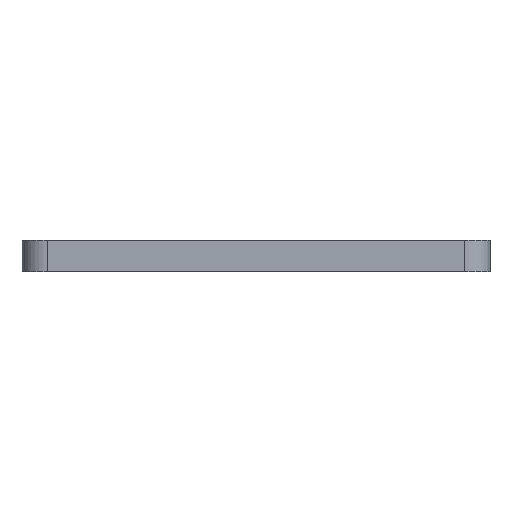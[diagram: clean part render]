
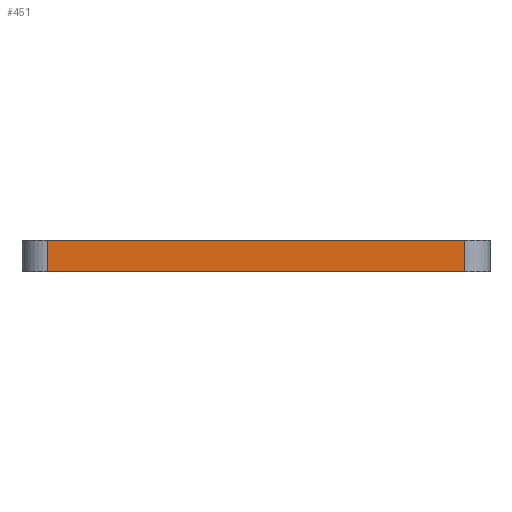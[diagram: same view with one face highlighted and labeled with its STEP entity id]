
A CAD part, front view. The second image highlights one B-rep face of the part: STEP entity #451.
In plain terms, the highlighted planar face has unit normal (0, -1, 0).
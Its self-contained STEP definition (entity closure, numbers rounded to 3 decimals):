
#26 = PLANE ( 'NONE',  #603 ) ;
#28 = CARTESIAN_POINT ( 'NONE',  ( 0., -33.396, 0. ) ) ;
#38 = DIRECTION ( 'NONE',  ( 0., 0., 1. ) ) ;
#68 = VECTOR ( 'NONE', #896, 1000. ) ;
#112 = CARTESIAN_POINT ( 'NONE',  ( -51.125, -33.396, 2.5 ) ) ;
#133 = EDGE_CURVE ( 'NONE', #416, #515, #727, .T. ) ;
#163 = CARTESIAN_POINT ( 'NONE',  ( -18.125, -33.396, 2.5 ) ) ;
#188 = CARTESIAN_POINT ( 'NONE',  ( 0., -33.396, 2.5 ) ) ;
#234 = LINE ( 'NONE', #112, #284 ) ;
#249 = CARTESIAN_POINT ( 'NONE',  ( -51.125, -33.396, 2.5 ) ) ;
#253 = VECTOR ( 'NONE', #943, 1000. ) ;
#275 = LINE ( 'NONE', #804, #68 ) ;
#284 = VECTOR ( 'NONE', #762, 1000. ) ;
#324 = ORIENTED_EDGE ( 'NONE', *, *, #558, .T. ) ;
#401 = CARTESIAN_POINT ( 'NONE',  ( 0., -33.396, 2.5 ) ) ;
#416 = VERTEX_POINT ( 'NONE', #742 ) ;
#440 = DIRECTION ( 'NONE',  ( 0., 1., 0. ) ) ;
#451 = ADVANCED_FACE ( 'NONE', ( #597 ), #26, .F. ) ;
#507 = DIRECTION ( 'NONE',  ( 1., 0., 0. ) ) ;
#515 = VERTEX_POINT ( 'NONE', #877 ) ;
#558 = EDGE_CURVE ( 'NONE', #657, #416, #234, .T. ) ;
#567 = LINE ( 'NONE', #401, #253 ) ;
#597 = FACE_OUTER_BOUND ( 'NONE', #613, .T. ) ;
#603 = AXIS2_PLACEMENT_3D ( 'NONE', #188, #440, #38 ) ;
#604 = ORIENTED_EDGE ( 'NONE', *, *, #133, .T. ) ;
#613 = EDGE_LOOP ( 'NONE', ( #604, #905, #694, #324 ) ) ;
#630 = EDGE_CURVE ( 'NONE', #657, #831, #567, .T. ) ;
#657 = VERTEX_POINT ( 'NONE', #249 ) ;
#664 = EDGE_CURVE ( 'NONE', #831, #515, #275, .T. ) ;
#668 = VECTOR ( 'NONE', #507, 1000. ) ;
#694 = ORIENTED_EDGE ( 'NONE', *, *, #630, .F. ) ;
#727 = LINE ( 'NONE', #28, #668 ) ;
#742 = CARTESIAN_POINT ( 'NONE',  ( -51.125, -33.396, 0. ) ) ;
#762 = DIRECTION ( 'NONE',  ( 0., 0., -1. ) ) ;
#804 = CARTESIAN_POINT ( 'NONE',  ( -18.125, -33.396, 2.5 ) ) ;
#831 = VERTEX_POINT ( 'NONE', #163 ) ;
#877 = CARTESIAN_POINT ( 'NONE',  ( -18.125, -33.396, 0. ) ) ;
#896 = DIRECTION ( 'NONE',  ( 0., 0., -1. ) ) ;
#905 = ORIENTED_EDGE ( 'NONE', *, *, #664, .F. ) ;
#943 = DIRECTION ( 'NONE',  ( 1., 0., 0. ) ) ;
